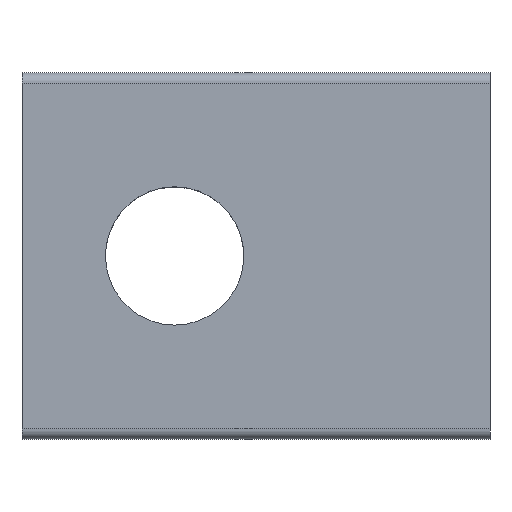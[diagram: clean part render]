
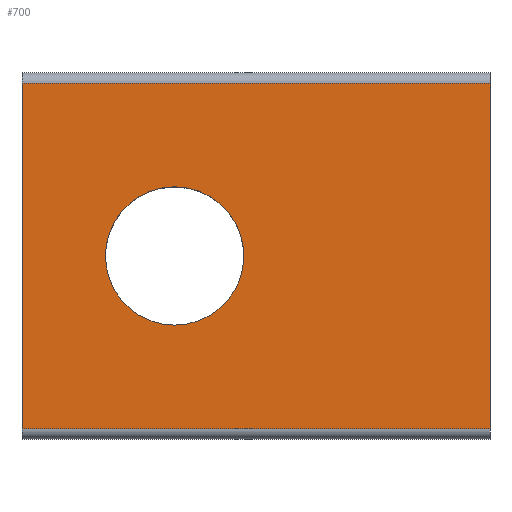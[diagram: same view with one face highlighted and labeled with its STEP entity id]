
A CAD part, top view. The second image highlights one B-rep face of the part: STEP entity #700.
In plain terms, the highlighted planar face has unit normal (0, 0, 1).
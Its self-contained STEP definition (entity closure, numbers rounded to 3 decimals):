
#10 = VERTEX_POINT ( 'NONE', #506 ) ;
#16 = EDGE_CURVE ( 'NONE', #589, #10, #719, .T. ) ;
#46 = CARTESIAN_POINT ( 'NONE',  ( 15.5, -8.5, 0. ) ) ;
#61 = VECTOR ( 'NONE', #521, 1000. ) ;
#71 = VECTOR ( 'NONE', #436, 1000. ) ;
#77 = EDGE_CURVE ( 'NONE', #93, #453, #504, .T. ) ;
#93 = VERTEX_POINT ( 'NONE', #384 ) ;
#122 = CARTESIAN_POINT ( 'NONE',  ( -3.4, 0., 0. ) ) ;
#123 = FACE_OUTER_BOUND ( 'NONE', #699, .T. ) ;
#145 = ORIENTED_EDGE ( 'NONE', *, *, #16, .F. ) ;
#149 = EDGE_LOOP ( 'NONE', ( #548, #328 ) ) ;
#177 = AXIS2_PLACEMENT_3D ( 'NONE', #660, #494, #323 ) ;
#178 = EDGE_CURVE ( 'NONE', #209, #211, #574, .T. ) ;
#209 = VERTEX_POINT ( 'NONE', #565 ) ;
#211 = VERTEX_POINT ( 'NONE', #232 ) ;
#220 = CARTESIAN_POINT ( 'NONE',  ( 15.5, -8.5, 0. ) ) ;
#232 = CARTESIAN_POINT ( 'NONE',  ( -7.5, 8.5, 0. ) ) ;
#233 = DIRECTION ( 'NONE',  ( 0., -1., 0. ) ) ;
#248 = PLANE ( 'NONE',  #410 ) ;
#289 = LINE ( 'NONE', #731, #640 ) ;
#320 = ORIENTED_EDGE ( 'NONE', *, *, #710, .F. ) ;
#321 = VECTOR ( 'NONE', #540, 1000. ) ;
#323 = DIRECTION ( 'NONE',  ( 1., 0., 0. ) ) ;
#328 = ORIENTED_EDGE ( 'NONE', *, *, #610, .F. ) ;
#340 = EDGE_CURVE ( 'NONE', #211, #10, #429, .T. ) ;
#362 = DIRECTION ( 'NONE',  ( 0., 0., -1. ) ) ;
#372 = ORIENTED_EDGE ( 'NONE', *, *, #178, .T. ) ;
#384 = CARTESIAN_POINT ( 'NONE',  ( 3.4, 0., 0. ) ) ;
#410 = AXIS2_PLACEMENT_3D ( 'NONE', #419, #362, #581 ) ;
#419 = CARTESIAN_POINT ( 'NONE',  ( 15.5, 8.5, 0. ) ) ;
#426 = ORIENTED_EDGE ( 'NONE', *, *, #340, .T. ) ;
#429 = LINE ( 'NONE', #597, #321 ) ;
#436 = DIRECTION ( 'NONE',  ( -1., 0., 0. ) ) ;
#453 = VERTEX_POINT ( 'NONE', #122 ) ;
#455 = AXIS2_PLACEMENT_3D ( 'NONE', #606, #554, #503 ) ;
#494 = DIRECTION ( 'NONE',  ( 0., 0., 1. ) ) ;
#503 = DIRECTION ( 'NONE',  ( 1., 0., 0. ) ) ;
#504 = CIRCLE ( 'NONE', #177, 3.4 ) ;
#506 = CARTESIAN_POINT ( 'NONE',  ( -7.5, -8.5, 0. ) ) ;
#517 = CARTESIAN_POINT ( 'NONE',  ( 15.5, 8.5, 0. ) ) ;
#521 = DIRECTION ( 'NONE',  ( -1., 0., 0. ) ) ;
#540 = DIRECTION ( 'NONE',  ( 0., -1., 0. ) ) ;
#548 = ORIENTED_EDGE ( 'NONE', *, *, #77, .F. ) ;
#554 = DIRECTION ( 'NONE',  ( 0., 0., 1. ) ) ;
#565 = CARTESIAN_POINT ( 'NONE',  ( 15.5, 8.5, 0. ) ) ;
#574 = LINE ( 'NONE', #517, #61 ) ;
#577 = CIRCLE ( 'NONE', #455, 3.4 ) ;
#581 = DIRECTION ( 'NONE',  ( -1., 0., 0. ) ) ;
#589 = VERTEX_POINT ( 'NONE', #46 ) ;
#597 = CARTESIAN_POINT ( 'NONE',  ( -7.5, 8.5, 0. ) ) ;
#606 = CARTESIAN_POINT ( 'NONE',  ( 0., 0., 0. ) ) ;
#610 = EDGE_CURVE ( 'NONE', #453, #93, #577, .T. ) ;
#637 = FACE_BOUND ( 'NONE', #149, .T. ) ;
#640 = VECTOR ( 'NONE', #233, 1000. ) ;
#660 = CARTESIAN_POINT ( 'NONE',  ( 0., 0., 0. ) ) ;
#699 = EDGE_LOOP ( 'NONE', ( #426, #145, #320, #372 ) ) ;
#700 = ADVANCED_FACE ( 'NONE', ( #637, #123 ), #248, .F. ) ;
#710 = EDGE_CURVE ( 'NONE', #209, #589, #289, .T. ) ;
#719 = LINE ( 'NONE', #220, #71 ) ;
#731 = CARTESIAN_POINT ( 'NONE',  ( 15.5, 8.5, 0. ) ) ;
